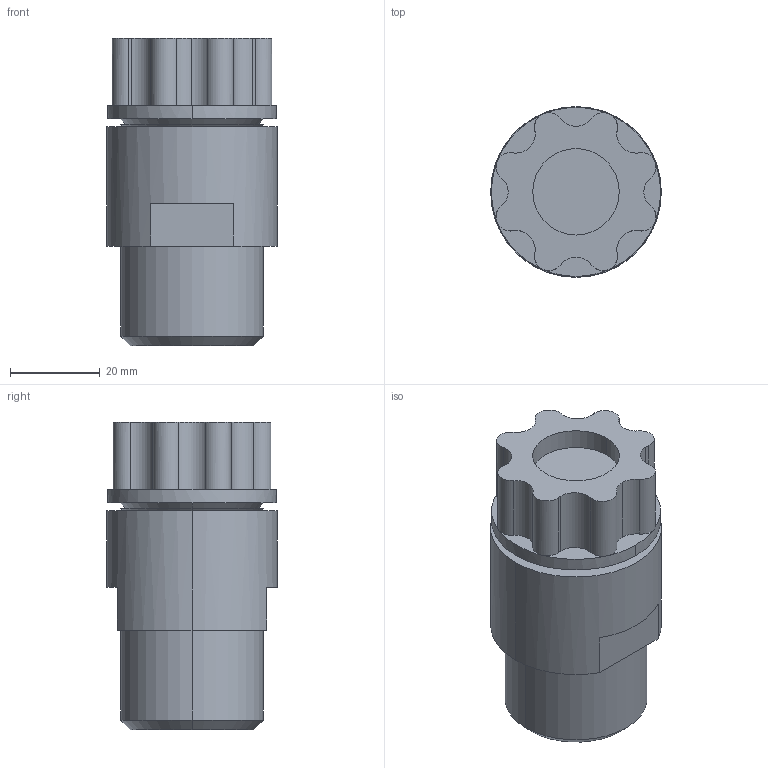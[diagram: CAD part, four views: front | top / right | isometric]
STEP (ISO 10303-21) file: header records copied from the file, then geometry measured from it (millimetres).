
FILE_DESCRIPTION (( 'STEP AP214' ), '1' );
FILE_NAME ('Fitting Synchro-Flare 12.STEP', '2012-09-26T18:23:03', ( '' ), ( '' ), 'SwSTEP 2.0', 'SolidWorks 2012', '' );
FILE_SCHEMA (( 'AUTOMOTIVE_DESIGN' ));
Length unit declared in the file: inch
Products named in the file (1): Fitting Synchro-Flare 12
Bounding box: 38.1 x 38.1 x 68.58 mm (x, y, z)
Volume: 69774.2 mm3; surface area: 18393.9 mm2
Topology: 2 solids, 2 shells, 141 faces, 305 edges, 198 vertices
Faces by surface type: cone 58, plane 46, cylinder 37
Entity records: 4023 total; most frequent: DIRECTION 791, CARTESIAN_POINT 645, ORIENTED_EDGE 610, AXIS2_PLACEMENT_3D 344, EDGE_CURVE 305, CIRCLE 202, VERTEX_POINT 198, EDGE_LOOP 171
